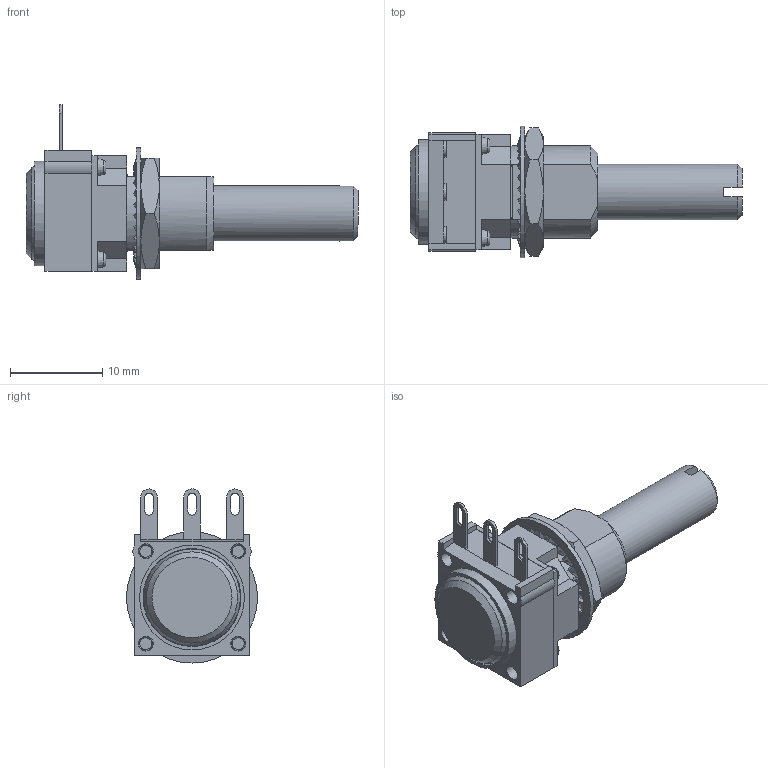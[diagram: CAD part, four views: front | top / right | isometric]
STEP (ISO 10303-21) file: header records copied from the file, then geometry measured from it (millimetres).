
FILE_DESCRIPTION(/* description */ ('P11P1F0GGSY00102KA'),/* implementation_level */ '2;1');
FILE_NAME(/* name */ 'P11L1V0FLSY00____',/* time_stamp */ '2023-09-13T10:02:47+02:00',/* author */ ('T MANCINI'),/* organization */ ('Vishay'),/* preprocessor_version */ 'ST-DEVELOPER v18.102',/* originating_system */ 'Solid Edge',/* authorisation */ 'Unknown');
FILE_SCHEMA (('AUTOMOTIVE_DESIGN {1 0 10303 214 3 1 1}'));
Length unit declared in the file: millimetre
Products named in the file (9): 1; 2_oa_0; 3_oa_1; 4_oa_2; 5_oa_3; 6_oa_4; 7; 8; 9
Assembly tree (8 placements, depth 3):
  1
    2_oa_0
    3_oa_1
    4_oa_2
      5_oa_3
      6_oa_4
    7
    8
    9
Bounding box: 35.93 x 14.2 x 18.85 mm (x, y, z)
Volume: 1569.7 mm3; surface area: 3159.4 mm2
Topology: 10 solids, 10 shells, 661 faces, 1843 edges, 1216 vertices
Faces by surface type: plane 348, cylinder 159, bspline 104, cone 42, torus 8
Full cylindrical faces by diameter (mm): 1.3 x4, 1.5 x8, 1.55 x4, 3.97 x1, 5.6 x1, 6 x2, 7.42 x1, 7.5 x2, 8.4 x1, 9.188 x1, 9.65 x1, 10.6 x1, 11.35 x1, 14.2 x1
Entity records: 23268 total; most frequent: CARTESIAN_POINT 6660, ORIENTED_EDGE 3530, DIRECTION 2822, EDGE_CURVE 1765, VERTEX_POINT 1194, LINE 978, VECTOR 978, AXIS2_PLACEMENT_3D 922
